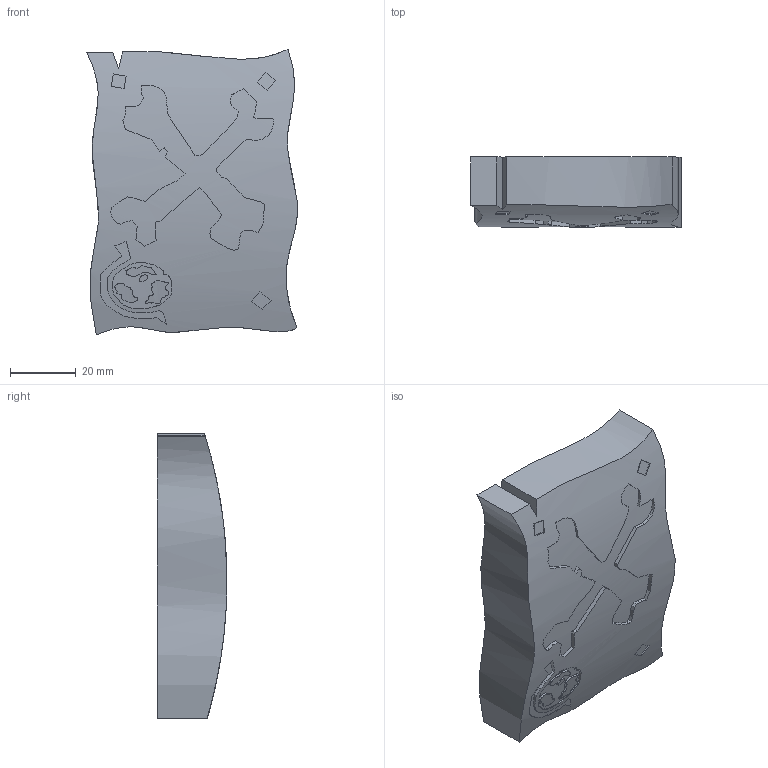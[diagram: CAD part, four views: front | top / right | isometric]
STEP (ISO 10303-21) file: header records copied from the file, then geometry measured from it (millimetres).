
FILE_DESCRIPTION(/* description */ (''),/* implementation_level */ '2;1');
FILE_NAME(/* name */ 'Scroll.step',/* time_stamp */ '2024-01-09T12:41:08-05:00',/* author */ (''),/* organization */ (''),/* preprocessor_version */ 'ST-DEVELOPER v20',/* originating_system */ 'Autodesk Translation Framework v12.14.0.127',/* authorisation */ '');
FILE_SCHEMA (('AUTOMOTIVE_DESIGN { 1 0 10303 214 3 1 1 }'));
Length unit declared in the file: millimetre
Products named in the file (1): Scroll
Bounding box: 64.19 x 21.27 x 87.08 mm (x, y, z)
Volume: 94977 mm3; surface area: 18829.3 mm2
Topology: 1 solids, 7 shells, 555 faces, 1593 edges, 1062 vertices
Faces by surface type: plane 540, cylinder 11, bspline 4
Entity records: 18705 total; most frequent: CARTESIAN_POINT 3644, DIRECTION 3193, ORIENTED_EDGE 3186, EDGE_CURVE 1593, LINE 1081, VECTOR 1081, VERTEX_POINT 1062, AXIS2_PLACEMENT_3D 1056
